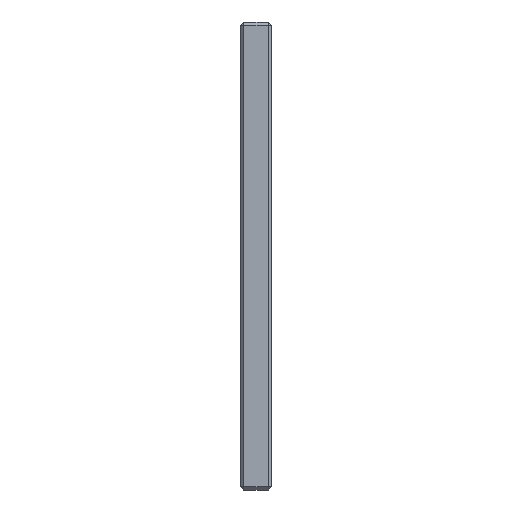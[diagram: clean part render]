
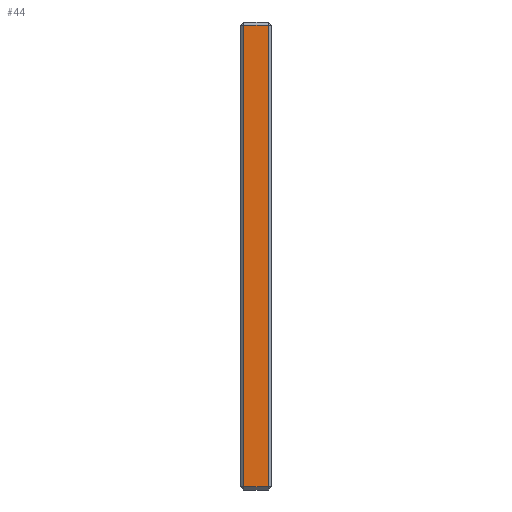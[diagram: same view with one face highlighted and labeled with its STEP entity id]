
A CAD part, left-side view. The second image highlights one B-rep face of the part: STEP entity #44.
In plain terms, the highlighted planar face has unit normal (-1, 0, 0).
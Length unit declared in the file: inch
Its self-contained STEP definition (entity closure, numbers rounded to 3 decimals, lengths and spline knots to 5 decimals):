
#44 = ADVANCED_FACE ( 'Placement Plane', ( #1368 ), #967, .F. ) ;
#48 = EDGE_LOOP ( 'NONE', ( #1005, #176, #966, #861 ) ) ;
#55 = EDGE_CURVE ( 'NONE', #1238, #1731, #777, .T. ) ;
#121 = LINE ( 'NONE', #223, #358 ) ;
#146 = LINE ( 'NONE', #447, #1047 ) ;
#156 = DIRECTION ( 'NONE',  ( 0., 0., -1. ) ) ;
#166 = EDGE_CURVE ( 'NONE', #1620, #1238, #146, .T. ) ;
#176 = ORIENTED_EDGE ( 'NONE', *, *, #166, .T. ) ;
#223 = CARTESIAN_POINT ( 'NONE',  ( -5.875, 0.45, -3.875 ) ) ;
#334 = EDGE_CURVE ( 'NONE', #570, #1620, #121, .T. ) ;
#358 = VECTOR ( 'NONE', #1590, 39.37008 ) ;
#447 = CARTESIAN_POINT ( 'NONE',  ( -5.875, 0.5, -3.825 ) ) ;
#540 = CARTESIAN_POINT ( 'NONE',  ( -5.875, 0.05, -3.825 ) ) ;
#570 = VERTEX_POINT ( 'NONE', #1650 ) ;
#691 = CARTESIAN_POINT ( 'NONE',  ( -5.875, 0.05, -3.875 ) ) ;
#777 = LINE ( 'NONE', #691, #1385 ) ;
#828 = DIRECTION ( 'NONE',  ( 0., -1., 0. ) ) ;
#830 = DIRECTION ( 'NONE',  ( 1., 0., 0. ) ) ;
#861 = ORIENTED_EDGE ( 'NONE', *, *, #1417, .T. ) ;
#875 = AXIS2_PLACEMENT_3D ( 'NONE', #1654, #830, #156 ) ;
#966 = ORIENTED_EDGE ( 'NONE', *, *, #55, .T. ) ;
#967 = PLANE ( 'NONE',  #875 ) ;
#1005 = ORIENTED_EDGE ( 'NONE', *, *, #334, .T. ) ;
#1027 = CARTESIAN_POINT ( 'NONE',  ( -5.875, 0.5, 3.825 ) ) ;
#1032 = LINE ( 'NONE', #1027, #1718 ) ;
#1047 = VECTOR ( 'NONE', #828, 39.37008 ) ;
#1097 = DIRECTION ( 'NONE',  ( 0., 0., 1. ) ) ;
#1146 = DIRECTION ( 'NONE',  ( 0., 1., 0. ) ) ;
#1238 = VERTEX_POINT ( 'NONE', #540 ) ;
#1368 = FACE_OUTER_BOUND ( 'NONE', #48, .T. ) ;
#1385 = VECTOR ( 'NONE', #1097, 39.37008 ) ;
#1417 = EDGE_CURVE ( 'NONE', #1731, #570, #1032, .T. ) ;
#1425 = CARTESIAN_POINT ( 'NONE',  ( -5.875, 0.45, -3.825 ) ) ;
#1467 = CARTESIAN_POINT ( 'NONE',  ( -5.875, 0.05, 3.825 ) ) ;
#1590 = DIRECTION ( 'NONE',  ( 0., 0., -1. ) ) ;
#1620 = VERTEX_POINT ( 'NONE', #1425 ) ;
#1650 = CARTESIAN_POINT ( 'NONE',  ( -5.875, 0.45, 3.825 ) ) ;
#1654 = CARTESIAN_POINT ( 'NONE',  ( -5.875, 0.5, -3.875 ) ) ;
#1718 = VECTOR ( 'NONE', #1146, 39.37008 ) ;
#1731 = VERTEX_POINT ( 'NONE', #1467 ) ;
